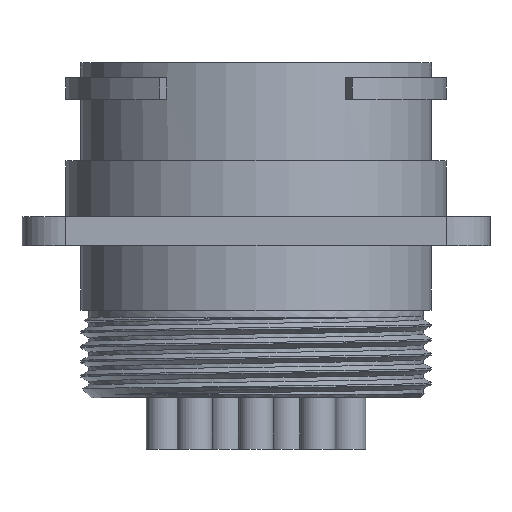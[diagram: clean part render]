
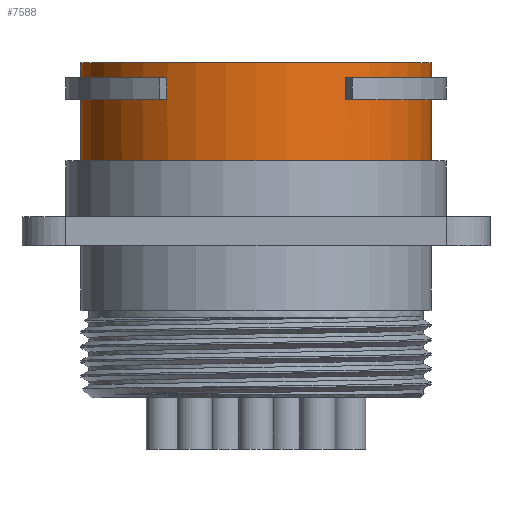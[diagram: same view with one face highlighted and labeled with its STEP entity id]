
A CAD part, front view. The second image highlights one B-rep face of the part: STEP entity #7588.
In plain terms, the highlighted cylindrical face has radius 12 mm (diameter 24 mm), a partial arc.
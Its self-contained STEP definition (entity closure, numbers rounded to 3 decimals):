
#776 = DIRECTION ( 'NONE',  ( 0., 0., -1. ) ) ;
#978 = VECTOR ( 'NONE', #29187, 1000. ) ;
#1266 = EDGE_CURVE ( 'NONE', #21587, #11495, #38118, .T. ) ;
#1639 = AXIS2_PLACEMENT_3D ( 'NONE', #26933, #8681, #30021 ) ;
#1797 = CARTESIAN_POINT ( 'NONE',  ( -12., -0.105, -1. ) ) ;
#1925 = CARTESIAN_POINT ( 'NONE',  ( 12., -0.105, -18.056 ) ) ;
#2086 = DIRECTION ( 'NONE',  ( 0., 0., -1. ) ) ;
#2482 = CIRCLE ( 'NONE', #13086, 12. ) ;
#2685 = CARTESIAN_POINT ( 'NONE',  ( 6.09, -10.34, -18.056 ) ) ;
#3183 = LINE ( 'NONE', #1925, #34615 ) ;
#3485 = ORIENTED_EDGE ( 'NONE', *, *, #1266, .T. ) ;
#3663 = ORIENTED_EDGE ( 'NONE', *, *, #11835, .T. ) ;
#4214 = CARTESIAN_POINT ( 'NONE',  ( 12., 0., -28.641 ) ) ;
#4799 = VERTEX_POINT ( 'NONE', #37616 ) ;
#5220 = VERTEX_POINT ( 'NONE', #13589 ) ;
#5762 = EDGE_CURVE ( 'NONE', #38178, #27151, #3183, .T. ) ;
#6374 = CARTESIAN_POINT ( 'NONE',  ( -6.09, -10.34, -18.056 ) ) ;
#6874 = ORIENTED_EDGE ( 'NONE', *, *, #38302, .F. ) ;
#7387 = CIRCLE ( 'NONE', #33417, 12. ) ;
#7588 = ADVANCED_FACE ( 'NONE', ( #20205, #28377, #35494 ), #34536, .T. ) ;
#7800 = CIRCLE ( 'NONE', #8656, 12. ) ;
#7980 = LINE ( 'NONE', #6374, #39501 ) ;
#8572 = DIRECTION ( 'NONE',  ( 0., 0., 1. ) ) ;
#8656 = AXIS2_PLACEMENT_3D ( 'NONE', #18966, #776, #22006 ) ;
#8672 = EDGE_CURVE ( 'NONE', #22394, #5220, #7980, .T. ) ;
#8681 = DIRECTION ( 'NONE',  ( 0., 0., -1. ) ) ;
#9127 = DIRECTION ( 'NONE',  ( 0., 0., -1. ) ) ;
#9307 = VECTOR ( 'NONE', #8572, 1000. ) ;
#9826 = VERTEX_POINT ( 'NONE', #15661 ) ;
#10004 = ORIENTED_EDGE ( 'NONE', *, *, #37173, .F. ) ;
#10108 = CARTESIAN_POINT ( 'NONE',  ( 0., 0., -1. ) ) ;
#10597 = VECTOR ( 'NONE', #37904, 1000. ) ;
#10605 = AXIS2_PLACEMENT_3D ( 'NONE', #10108, #31448, #13208 ) ;
#10896 = CARTESIAN_POINT ( 'NONE',  ( -12., 0., -28.641 ) ) ;
#11495 = VERTEX_POINT ( 'NONE', #27675 ) ;
#11835 = EDGE_CURVE ( 'NONE', #38636, #13409, #25515, .T. ) ;
#12522 = DIRECTION ( 'NONE',  ( 0., 0., 1. ) ) ;
#12958 = CIRCLE ( 'NONE', #17138, 12. ) ;
#13086 = AXIS2_PLACEMENT_3D ( 'NONE', #36321, #18031, #39421 ) ;
#13208 = DIRECTION ( 'NONE',  ( -0.5, -0.866, 0. ) ) ;
#13409 = VERTEX_POINT ( 'NONE', #1797 ) ;
#13443 = DIRECTION ( 'NONE',  ( -1., 0., 0. ) ) ;
#13580 = DIRECTION ( 'NONE',  ( 0., 0., -1. ) ) ;
#13589 = CARTESIAN_POINT ( 'NONE',  ( -6.09, -10.34, -1. ) ) ;
#14173 = LINE ( 'NONE', #2685, #22202 ) ;
#14505 = CARTESIAN_POINT ( 'NONE',  ( 12., -0.105, -2.5 ) ) ;
#15661 = CARTESIAN_POINT ( 'NONE',  ( 12., 0., -6.7 ) ) ;
#17138 = AXIS2_PLACEMENT_3D ( 'NONE', #27388, #9127, #30469 ) ;
#18031 = DIRECTION ( 'NONE',  ( 0., 0., -1. ) ) ;
#18685 = LINE ( 'NONE', #4214, #10597 ) ;
#18703 = CARTESIAN_POINT ( 'NONE',  ( -6.09, -10.34, -2.5 ) ) ;
#18966 = CARTESIAN_POINT ( 'NONE',  ( 0., 0., -2.5 ) ) ;
#19513 = EDGE_CURVE ( 'NONE', #11495, #27458, #30504, .T. ) ;
#20205 = FACE_OUTER_BOUND ( 'NONE', #37018, .T. ) ;
#20263 = CARTESIAN_POINT ( 'NONE',  ( 0., 0., -6.7 ) ) ;
#20396 = ORIENTED_EDGE ( 'NONE', *, *, #19513, .T. ) ;
#21587 = VERTEX_POINT ( 'NONE', #28435 ) ;
#22006 = DIRECTION ( 'NONE',  ( 0.5, 0.866, 0. ) ) ;
#22202 = VECTOR ( 'NONE', #23952, 1000. ) ;
#22394 = VERTEX_POINT ( 'NONE', #18703 ) ;
#23048 = ORIENTED_EDGE ( 'NONE', *, *, #28227, .T. ) ;
#23333 = DIRECTION ( 'NONE',  ( -1., 0., 0. ) ) ;
#23952 = DIRECTION ( 'NONE',  ( 0., 0., 1. ) ) ;
#24097 = EDGE_LOOP ( 'NONE', ( #30968, #29070, #23048, #27644 ) ) ;
#24833 = ORIENTED_EDGE ( 'NONE', *, *, #8672, .F. ) ;
#25515 = LINE ( 'NONE', #35899, #9307 ) ;
#25609 = ORIENTED_EDGE ( 'NONE', *, *, #34184, .F. ) ;
#26536 = CARTESIAN_POINT ( 'NONE',  ( -12., -0.105, -2.5 ) ) ;
#26933 = CARTESIAN_POINT ( 'NONE',  ( 0., 0., 0. ) ) ;
#27027 = EDGE_CURVE ( 'NONE', #27151, #37201, #35150, .T. ) ;
#27151 = VERTEX_POINT ( 'NONE', #28775 ) ;
#27388 = CARTESIAN_POINT ( 'NONE',  ( 0., 0., -1. ) ) ;
#27458 = VERTEX_POINT ( 'NONE', #36327 ) ;
#27548 = ORIENTED_EDGE ( 'NONE', *, *, #38257, .T. ) ;
#27644 = ORIENTED_EDGE ( 'NONE', *, *, #27027, .F. ) ;
#27675 = CARTESIAN_POINT ( 'NONE',  ( -12., 0., 0. ) ) ;
#28227 = EDGE_CURVE ( 'NONE', #4799, #37201, #14173, .T. ) ;
#28377 = FACE_BOUND ( 'NONE', #35807, .T. ) ;
#28435 = CARTESIAN_POINT ( 'NONE',  ( 12., 0., 0. ) ) ;
#28775 = CARTESIAN_POINT ( 'NONE',  ( 12., -0.105, -1. ) ) ;
#29070 = ORIENTED_EDGE ( 'NONE', *, *, #35436, .T. ) ;
#29187 = DIRECTION ( 'NONE',  ( 0., 0., -1. ) ) ;
#30021 = DIRECTION ( 'NONE',  ( -1., 0., 0. ) ) ;
#30469 = DIRECTION ( 'NONE',  ( -0.5, 0.866, 0. ) ) ;
#30504 = LINE ( 'NONE', #10896, #978 ) ;
#30968 = ORIENTED_EDGE ( 'NONE', *, *, #5762, .F. ) ;
#31448 = DIRECTION ( 'NONE',  ( 0., 0., -1. ) ) ;
#31819 = CARTESIAN_POINT ( 'NONE',  ( 0., 0., -28.641 ) ) ;
#33417 = AXIS2_PLACEMENT_3D ( 'NONE', #20263, #2086, #23333 ) ;
#34184 = EDGE_CURVE ( 'NONE', #9826, #27458, #7387, .T. ) ;
#34536 = CYLINDRICAL_SURFACE ( 'NONE', #39199, 12. ) ;
#34615 = VECTOR ( 'NONE', #35718, 1000. ) ;
#35150 = CIRCLE ( 'NONE', #10605, 12. ) ;
#35436 = EDGE_CURVE ( 'NONE', #38178, #4799, #7800, .T. ) ;
#35494 = FACE_BOUND ( 'NONE', #24097, .T. ) ;
#35718 = DIRECTION ( 'NONE',  ( 0., 0., 1. ) ) ;
#35807 = EDGE_LOOP ( 'NONE', ( #24833, #27548, #3663, #6874 ) ) ;
#35899 = CARTESIAN_POINT ( 'NONE',  ( -12., -0.105, -18.056 ) ) ;
#36321 = CARTESIAN_POINT ( 'NONE',  ( 0., 0., -2.5 ) ) ;
#36327 = CARTESIAN_POINT ( 'NONE',  ( -12., 0., -6.7 ) ) ;
#37018 = EDGE_LOOP ( 'NONE', ( #10004, #3485, #20396, #25609 ) ) ;
#37173 = EDGE_CURVE ( 'NONE', #21587, #9826, #18685, .T. ) ;
#37201 = VERTEX_POINT ( 'NONE', #38033 ) ;
#37616 = CARTESIAN_POINT ( 'NONE',  ( 6.09, -10.34, -2.5 ) ) ;
#37904 = DIRECTION ( 'NONE',  ( 0., 0., -1. ) ) ;
#38033 = CARTESIAN_POINT ( 'NONE',  ( 6.09, -10.34, -1. ) ) ;
#38118 = CIRCLE ( 'NONE', #1639, 12. ) ;
#38178 = VERTEX_POINT ( 'NONE', #14505 ) ;
#38257 = EDGE_CURVE ( 'NONE', #22394, #38636, #2482, .T. ) ;
#38302 = EDGE_CURVE ( 'NONE', #5220, #13409, #12958, .T. ) ;
#38636 = VERTEX_POINT ( 'NONE', #26536 ) ;
#39199 = AXIS2_PLACEMENT_3D ( 'NONE', #31819, #13580, #13443 ) ;
#39421 = DIRECTION ( 'NONE',  ( 0.5, -0.866, 0. ) ) ;
#39501 = VECTOR ( 'NONE', #12522, 1000. ) ;
